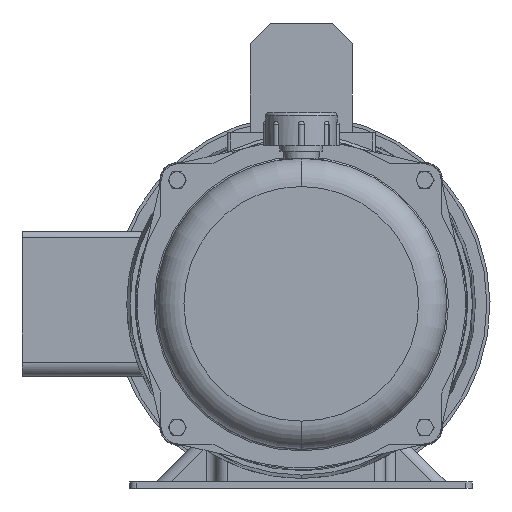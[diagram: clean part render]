
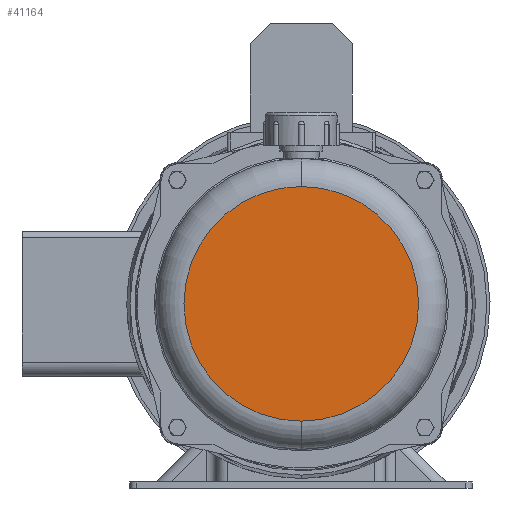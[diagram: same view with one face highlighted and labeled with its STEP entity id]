
A CAD part, front view. The second image highlights one B-rep face of the part: STEP entity #41164.
In plain terms, the highlighted planar face has unit normal (0, -1, 0).
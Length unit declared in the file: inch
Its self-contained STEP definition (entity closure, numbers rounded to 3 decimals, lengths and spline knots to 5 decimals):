
#40605=CARTESIAN_POINT('',(0.,-13.005,0.));
#40606=DIRECTION('',(0.,-1.,0.));
#40607=DIRECTION('',(0.,0.,1.));
#40608=AXIS2_PLACEMENT_3D('',#40605,#40606,#40607);
#40625=CARTESIAN_POINT('',(0.,-13.005,0.));
#40626=DIRECTION('',(0.,1.,0.));
#40627=DIRECTION('',(0.,0.,1.));
#40628=AXIS2_PLACEMENT_3D('',#40625,#40626,#40627);
#41017=CARTESIAN_POINT('',(0.,-13.005,2.2275));
#41019=VERTEX_POINT('',#41017);
#41025=CARTESIAN_POINT('',(0.,-13.005,-2.2275));
#41026=VERTEX_POINT('',#41025);
#41153=CARTESIAN_POINT('',(0.,-13.005,0.));
#41154=DIRECTION('',(0.,-1.,0.));
#41155=DIRECTION('',(0.,0.,-1.));
#41156=AXIS2_PLACEMENT_3D('',#41153,#41154,#41155);
#41157=PLANE('',#41156);
#41159=ORIENTED_EDGE('',*,*,#41158,.F.);
#41161=ORIENTED_EDGE('',*,*,#41160,.T.);
#41162=EDGE_LOOP('',(#41159,#41161));
#41163=FACE_OUTER_BOUND('',#41162,.F.);
#41164=ADVANCED_FACE('',(#41163),#41157,.T.);
#40609=CIRCLE('',#40608,2.2275);
#40629=CIRCLE('',#40628,2.2275);
#41158=EDGE_CURVE('',#41019,#41026,#40609,.T.);
#41160=EDGE_CURVE('',#41019,#41026,#40629,.T.);
